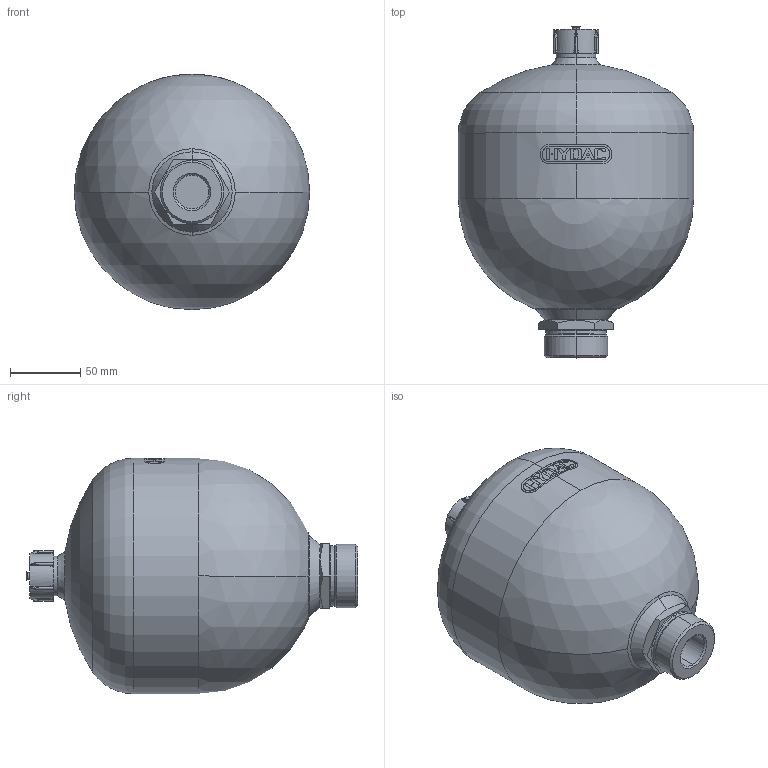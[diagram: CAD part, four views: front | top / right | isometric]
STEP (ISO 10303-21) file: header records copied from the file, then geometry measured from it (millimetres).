
FILE_DESCRIPTION (( 'STEP AP214' ), '1' );
FILE_NAME ('HYDAC-SBO210_2E1_AB.STEP', '2020-03-18T07:34:06', ( '' ), ( '' ), 'SwSTEP 2.0', 'SolidWorks 2019', '' );
FILE_SCHEMA (( 'AUTOMOTIVE_DESIGN' ));
Length unit declared in the file: millimetre
Products named in the file (1): HYDAC-SBO210_2E1_AB
Bounding box: 167 x 235.5 x 167 mm (x, y, z)
Volume: 3017973 mm3; surface area: 110698.9 mm2
Topology: 1 solids, 1 shells, 232 faces, 632 edges, 415 vertices
Faces by surface type: plane 110, cylinder 61, bspline 26, torus 17, cone 16, sphere 2
Entity records: 11346 total; most frequent: CARTESIAN_POINT 4283, ORIENTED_EDGE 1260, DIRECTION 1103, EDGE_CURVE 630, VERTEX_POINT 415, AXIS2_PLACEMENT_3D 401, LINE 301, VECTOR 301
